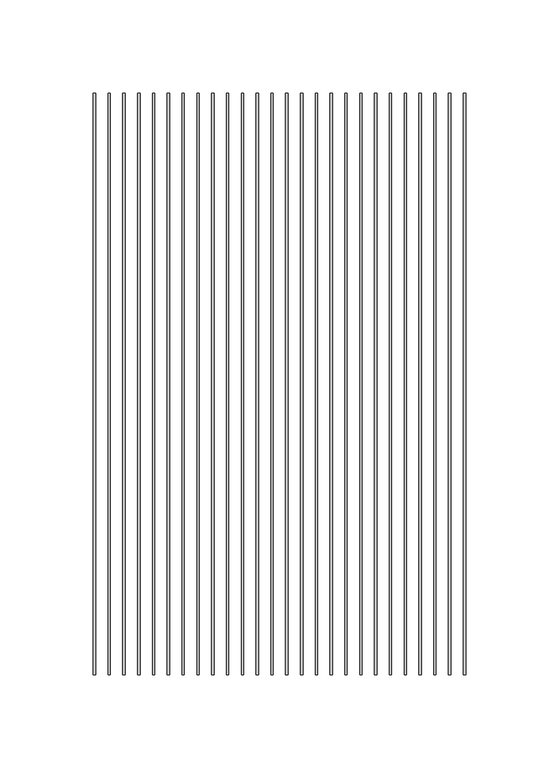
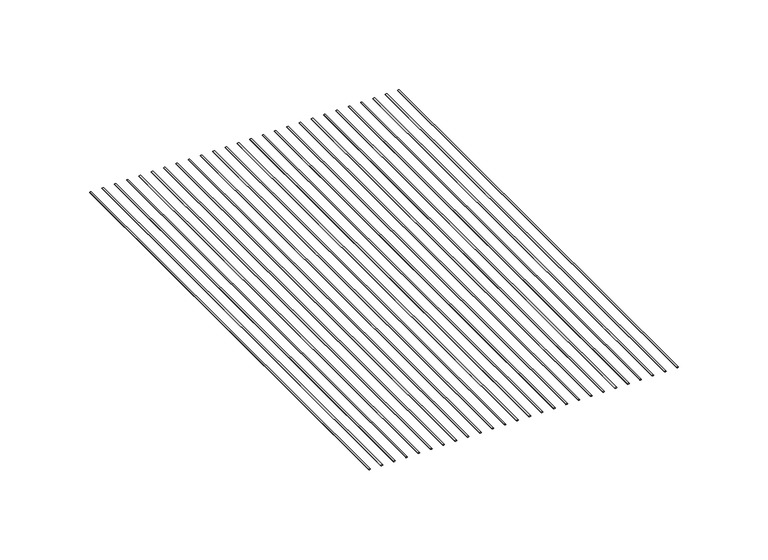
"""IFC4 building model written with IfcOpenShell, lengths in millimetres: proxy geometry, CRAi Generic Model Mesh Piece Face Based : CRAi Generic Model Mesh Piece Face Based."""

from ifc_helpers import new_model, si_unit, point, frame, origin, place, context, project, spatial, ellipse_curve, trimmed, source, transform, mapped, element, save
from ifc_brep_helpers import plane_surface, extruded_surface, advanced_brep


def generic_models_6d26ea6e(model_context):
    return source(origin(), model_context, "Body", "AdvancedBrep", [
        advanced_brep(
        [(-196.6515625, 155.6875423, -2.5796875), (-195.4609375, 155.6875423, -2.5796875), (-196.6515625, -155.6875423, -2.5796875), (-195.4609375, -155.6875423, -2.5796875)],
        [
            (0, 1, ellipse_curve(frame((-196.05625, 155.6875423, -2.5796875), z_axis=(0.0, 1.0, 0.0), x_axis=(1.0, 0.0, 0.0)), 0.5953125, 0.1984375)),
            (1, 0, ellipse_curve(frame((-196.05625, 155.6875423, -2.5796875), z_axis=(0.0, 1.0, 0.0), x_axis=(1.0, 0.0, 0.0)), 0.5953125, 0.1984375)),
            (2, 3, ellipse_curve(frame((-196.05625, -155.6875423, -2.5796875), z_axis=(0.0, -1.0, 0.0), x_axis=(1.0, 0.0, 0.0)), 0.5953125, 0.1984375)),
            (3, 2, ellipse_curve(frame((-196.05625, -155.6875423, -2.5796875), z_axis=(0.0, -1.0, 0.0), x_axis=(1.0, 0.0, 0.0)), 0.5953125, 0.1984375)),
            (1, 3),
            (2, 0),
        ],
        [
            plane_surface(frame((-196.05625, 155.6875423, -2.5796875), z_axis=(0.0, 1.0, 0.0), x_axis=(0.0, 0.0, 1.0))),
            plane_surface(frame((-196.05625, -155.6875423, -2.5796875), z_axis=(0.0, -1.0, 0.0), x_axis=(0.0, 0.0, 1.0))),
            extruded_surface(trimmed(ellipse_curve(frame((-196.05625, 155.6875423, -2.5796875), z_axis=(0.0, -1.0, 0.0), x_axis=(1.0, 0.0, 0.0)), 0.5953125, 0.1984375), [point((-196.6515625, 155.6875423, -2.5796875))], [point((-195.4609375, 155.6875423, -2.5796875))], True, "CARTESIAN"), (0.0, -311.3750846, 0.0), 311.3750846),
            extruded_surface(trimmed(ellipse_curve(frame((-196.05625, 155.6875423, -2.5796875), z_axis=(0.0, -1.0, 0.0), x_axis=(1.0, 0.0, 0.0)), 0.5953125, 0.1984375), [point((-195.4609375, 155.6875423, -2.5796875))], [point((-196.6515625, 155.6875423, -2.5796875))], True, "CARTESIAN"), (0.0, -311.3750846, 0.0), 311.3750846),
        ],
        [
            (0, [[1, 2]]),
            (1, [[3, 4]]),
            (2, [[5, -3, 6, -2]]),
            (3, [[-6, -4, -5, -1]]),
        ],
    ),
        advanced_brep(
        [(-188.7140625, 155.6875423, -2.5796875), (-187.5234375, 155.6875423, -2.5796875), (-188.7140625, -155.6875423, -2.5796875), (-187.5234375, -155.6875423, -2.5796875)],
        [
            (0, 1, ellipse_curve(frame((-188.11875, 155.6875423, -2.5796875), z_axis=(0.0, 1.0, 0.0), x_axis=(1.0, 0.0, 0.0)), 0.5953125, 0.1984375)),
            (1, 0, ellipse_curve(frame((-188.11875, 155.6875423, -2.5796875), z_axis=(0.0, 1.0, 0.0), x_axis=(1.0, 0.0, 0.0)), 0.5953125, 0.1984375)),
            (2, 3, ellipse_curve(frame((-188.11875, -155.6875423, -2.5796875), z_axis=(0.0, -1.0, 0.0), x_axis=(1.0, 0.0, 0.0)), 0.5953125, 0.1984375)),
            (3, 2, ellipse_curve(frame((-188.11875, -155.6875423, -2.5796875), z_axis=(0.0, -1.0, 0.0), x_axis=(1.0, 0.0, 0.0)), 0.5953125, 0.1984375)),
            (1, 3),
            (2, 0),
        ],
        [
            plane_surface(frame((-188.11875, 155.6875423, -2.5796875), z_axis=(0.0, 1.0, 0.0), x_axis=(0.0, 0.0, 1.0))),
            plane_surface(frame((-188.11875, -155.6875423, -2.5796875), z_axis=(0.0, -1.0, 0.0), x_axis=(0.0, 0.0, 1.0))),
            extruded_surface(trimmed(ellipse_curve(frame((-188.11875, 155.6875423, -2.5796875), z_axis=(0.0, -1.0, 0.0), x_axis=(1.0, 0.0, 0.0)), 0.5953125, 0.1984375), [point((-188.7140625, 155.6875423, -2.5796875))], [point((-187.5234375, 155.6875423, -2.5796875))], True, "CARTESIAN"), (0.0, -311.3750846, 0.0), 311.3750846),
            extruded_surface(trimmed(ellipse_curve(frame((-188.11875, 155.6875423, -2.5796875), z_axis=(0.0, -1.0, 0.0), x_axis=(1.0, 0.0, 0.0)), 0.5953125, 0.1984375), [point((-187.5234375, 155.6875423, -2.5796875))], [point((-188.7140625, 155.6875423, -2.5796875))], True, "CARTESIAN"), (0.0, -311.3750846, 0.0), 311.3750846),
        ],
        [
            (0, [[1, 2]]),
            (1, [[3, 4]]),
            (2, [[5, -3, 6, -2]]),
            (3, [[-6, -4, -5, -1]]),
        ],
    ),
        advanced_brep(
        [(-180.7765625, 155.6875423, -2.5796875), (-179.5859375, 155.6875423, -2.5796875), (-180.7765625, -155.6875423, -2.5796875), (-179.5859375, -155.6875423, -2.5796875)],
        [
            (0, 1, ellipse_curve(frame((-180.18125, 155.6875423, -2.5796875), z_axis=(0.0, 1.0, 0.0), x_axis=(1.0, 0.0, 0.0)), 0.5953125, 0.1984375)),
            (1, 0, ellipse_curve(frame((-180.18125, 155.6875423, -2.5796875), z_axis=(0.0, 1.0, 0.0), x_axis=(1.0, 0.0, 0.0)), 0.5953125, 0.1984375)),
            (2, 3, ellipse_curve(frame((-180.18125, -155.6875423, -2.5796875), z_axis=(0.0, -1.0, 0.0), x_axis=(1.0, 0.0, 0.0)), 0.5953125, 0.1984375)),
            (3, 2, ellipse_curve(frame((-180.18125, -155.6875423, -2.5796875), z_axis=(0.0, -1.0, 0.0), x_axis=(1.0, 0.0, 0.0)), 0.5953125, 0.1984375)),
            (1, 3),
            (2, 0),
        ],
        [
            plane_surface(frame((-180.18125, 155.6875423, -2.5796875), z_axis=(0.0, 1.0, 0.0), x_axis=(0.0, 0.0, 1.0))),
            plane_surface(frame((-180.18125, -155.6875423, -2.5796875), z_axis=(0.0, -1.0, 0.0), x_axis=(0.0, 0.0, 1.0))),
            extruded_surface(trimmed(ellipse_curve(frame((-180.18125, 155.6875423, -2.5796875), z_axis=(0.0, -1.0, 0.0), x_axis=(1.0, 0.0, 0.0)), 0.5953125, 0.1984375), [point((-180.7765625, 155.6875423, -2.5796875))], [point((-179.5859375, 155.6875423, -2.5796875))], True, "CARTESIAN"), (0.0, -311.3750846, 0.0), 311.3750846),
            extruded_surface(trimmed(ellipse_curve(frame((-180.18125, 155.6875423, -2.5796875), z_axis=(0.0, -1.0, 0.0), x_axis=(1.0, 0.0, 0.0)), 0.5953125, 0.1984375), [point((-179.5859375, 155.6875423, -2.5796875))], [point((-180.7765625, 155.6875423, -2.5796875))], True, "CARTESIAN"), (0.0, -311.3750846, 0.0), 311.3750846),
        ],
        [
            (0, [[1, 2]]),
            (1, [[3, 4]]),
            (2, [[5, -3, 6, -2]]),
            (3, [[-6, -4, -5, -1]]),
        ],
    ),
        advanced_brep(
        [(-172.8390625, 155.6875423, -2.5796875), (-171.6484375, 155.6875423, -2.5796875), (-172.8390625, -155.6875423, -2.5796875), (-171.6484375, -155.6875423, -2.5796875)],
        [
            (0, 1, ellipse_curve(frame((-172.24375, 155.6875423, -2.5796875), z_axis=(0.0, 1.0, 0.0), x_axis=(1.0, 0.0, 0.0)), 0.5953125, 0.1984375)),
            (1, 0, ellipse_curve(frame((-172.24375, 155.6875423, -2.5796875), z_axis=(0.0, 1.0, 0.0), x_axis=(1.0, 0.0, 0.0)), 0.5953125, 0.1984375)),
            (2, 3, ellipse_curve(frame((-172.24375, -155.6875423, -2.5796875), z_axis=(0.0, -1.0, 0.0), x_axis=(1.0, 0.0, 0.0)), 0.5953125, 0.1984375)),
            (3, 2, ellipse_curve(frame((-172.24375, -155.6875423, -2.5796875), z_axis=(0.0, -1.0, 0.0), x_axis=(1.0, 0.0, 0.0)), 0.5953125, 0.1984375)),
            (1, 3),
            (2, 0),
        ],
        [
            plane_surface(frame((-172.24375, 155.6875423, -2.5796875), z_axis=(0.0, 1.0, 0.0), x_axis=(0.0, 0.0, 1.0))),
            plane_surface(frame((-172.24375, -155.6875423, -2.5796875), z_axis=(0.0, -1.0, 0.0), x_axis=(0.0, 0.0, 1.0))),
            extruded_surface(trimmed(ellipse_curve(frame((-172.24375, 155.6875423, -2.5796875), z_axis=(0.0, -1.0, 0.0), x_axis=(1.0, 0.0, 0.0)), 0.5953125, 0.1984375), [point((-172.8390625, 155.6875423, -2.5796875))], [point((-171.6484375, 155.6875423, -2.5796875))], True, "CARTESIAN"), (0.0, -311.3750846, 0.0), 311.3750846),
            extruded_surface(trimmed(ellipse_curve(frame((-172.24375, 155.6875423, -2.5796875), z_axis=(0.0, -1.0, 0.0), x_axis=(1.0, 0.0, 0.0)), 0.5953125, 0.1984375), [point((-171.6484375, 155.6875423, -2.5796875))], [point((-172.8390625, 155.6875423, -2.5796875))], True, "CARTESIAN"), (0.0, -311.3750846, 0.0), 311.3750846),
        ],
        [
            (0, [[1, 2]]),
            (1, [[3, 4]]),
            (2, [[5, -3, 6, -2]]),
            (3, [[-6, -4, -5, -1]]),
        ],
    ),
        advanced_brep(
        [(-164.9015625, 155.6875423, -2.5796875), (-163.7109375, 155.6875423, -2.5796875), (-164.9015625, -155.6875423, -2.5796875), (-163.7109375, -155.6875423, -2.5796875)],
        [
            (0, 1, ellipse_curve(frame((-164.30625, 155.6875423, -2.5796875), z_axis=(0.0, 1.0, 0.0), x_axis=(1.0, 0.0, 0.0)), 0.5953125, 0.1984375)),
            (1, 0, ellipse_curve(frame((-164.30625, 155.6875423, -2.5796875), z_axis=(0.0, 1.0, 0.0), x_axis=(1.0, 0.0, 0.0)), 0.5953125, 0.1984375)),
            (2, 3, ellipse_curve(frame((-164.30625, -155.6875423, -2.5796875), z_axis=(0.0, -1.0, 0.0), x_axis=(1.0, 0.0, 0.0)), 0.5953125, 0.1984375)),
            (3, 2, ellipse_curve(frame((-164.30625, -155.6875423, -2.5796875), z_axis=(0.0, -1.0, 0.0), x_axis=(1.0, 0.0, 0.0)), 0.5953125, 0.1984375)),
            (1, 3),
            (2, 0),
        ],
        [
            plane_surface(frame((-164.30625, 155.6875423, -2.5796875), z_axis=(0.0, 1.0, 0.0), x_axis=(0.0, 0.0, 1.0))),
            plane_surface(frame((-164.30625, -155.6875423, -2.5796875), z_axis=(0.0, -1.0, 0.0), x_axis=(0.0, 0.0, 1.0))),
            extruded_surface(trimmed(ellipse_curve(frame((-164.30625, 155.6875423, -2.5796875), z_axis=(0.0, -1.0, 0.0), x_axis=(1.0, 0.0, 0.0)), 0.5953125, 0.1984375), [point((-164.9015625, 155.6875423, -2.5796875))], [point((-163.7109375, 155.6875423, -2.5796875))], True, "CARTESIAN"), (0.0, -311.3750846, 0.0), 311.3750846),
            extruded_surface(trimmed(ellipse_curve(frame((-164.30625, 155.6875423, -2.5796875), z_axis=(0.0, -1.0, 0.0), x_axis=(1.0, 0.0, 0.0)), 0.5953125, 0.1984375), [point((-163.7109375, 155.6875423, -2.5796875))], [point((-164.9015625, 155.6875423, -2.5796875))], True, "CARTESIAN"), (0.0, -311.3750846, 0.0), 311.3750846),
        ],
        [
            (0, [[1, 2]]),
            (1, [[3, 4]]),
            (2, [[5, -3, 6, -2]]),
            (3, [[-6, -4, -5, -1]]),
        ],
    ),
        advanced_brep(
        [(-156.9640625, 155.6875423, -2.5796875), (-155.7734375, 155.6875423, -2.5796875), (-156.9640625, -155.6875423, -2.5796875), (-155.7734375, -155.6875423, -2.5796875)],
        [
            (0, 1, ellipse_curve(frame((-156.36875, 155.6875423, -2.5796875), z_axis=(0.0, 1.0, 0.0), x_axis=(1.0, 0.0, 0.0)), 0.5953125, 0.1984375)),
            (1, 0, ellipse_curve(frame((-156.36875, 155.6875423, -2.5796875), z_axis=(0.0, 1.0, 0.0), x_axis=(1.0, 0.0, 0.0)), 0.5953125, 0.1984375)),
            (2, 3, ellipse_curve(frame((-156.36875, -155.6875423, -2.5796875), z_axis=(0.0, -1.0, 0.0), x_axis=(1.0, 0.0, 0.0)), 0.5953125, 0.1984375)),
            (3, 2, ellipse_curve(frame((-156.36875, -155.6875423, -2.5796875), z_axis=(0.0, -1.0, 0.0), x_axis=(1.0, 0.0, 0.0)), 0.5953125, 0.1984375)),
            (1, 3),
            (2, 0),
        ],
        [
            plane_surface(frame((-156.36875, 155.6875423, -2.5796875), z_axis=(0.0, 1.0, 0.0), x_axis=(0.0, 0.0, 1.0))),
            plane_surface(frame((-156.36875, -155.6875423, -2.5796875), z_axis=(0.0, -1.0, 0.0), x_axis=(0.0, 0.0, 1.0))),
            extruded_surface(trimmed(ellipse_curve(frame((-156.36875, 155.6875423, -2.5796875), z_axis=(0.0, -1.0, 0.0), x_axis=(1.0, 0.0, 0.0)), 0.5953125, 0.1984375), [point((-156.9640625, 155.6875423, -2.5796875))], [point((-155.7734375, 155.6875423, -2.5796875))], True, "CARTESIAN"), (0.0, -311.3750846, 0.0), 311.3750846),
            extruded_surface(trimmed(ellipse_curve(frame((-156.36875, 155.6875423, -2.5796875), z_axis=(0.0, -1.0, 0.0), x_axis=(1.0, 0.0, 0.0)), 0.5953125, 0.1984375), [point((-155.7734375, 155.6875423, -2.5796875))], [point((-156.9640625, 155.6875423, -2.5796875))], True, "CARTESIAN"), (0.0, -311.3750846, 0.0), 311.3750846),
        ],
        [
            (0, [[1, 2]]),
            (1, [[3, 4]]),
            (2, [[5, -3, 6, -2]]),
            (3, [[-6, -4, -5, -1]]),
        ],
    ),
        advanced_brep(
        [(-149.0265625, 155.6875423, -2.5796875), (-147.8359375, 155.6875423, -2.5796875), (-149.0265625, -155.6875423, -2.5796875), (-147.8359375, -155.6875423, -2.5796875)],
        [
            (0, 1, ellipse_curve(frame((-148.43125, 155.6875423, -2.5796875), z_axis=(0.0, 1.0, 0.0), x_axis=(1.0, 0.0, 0.0)), 0.5953125, 0.1984375)),
            (1, 0, ellipse_curve(frame((-148.43125, 155.6875423, -2.5796875), z_axis=(0.0, 1.0, 0.0), x_axis=(1.0, 0.0, 0.0)), 0.5953125, 0.1984375)),
            (2, 3, ellipse_curve(frame((-148.43125, -155.6875423, -2.5796875), z_axis=(0.0, -1.0, 0.0), x_axis=(1.0, 0.0, 0.0)), 0.5953125, 0.1984375)),
            (3, 2, ellipse_curve(frame((-148.43125, -155.6875423, -2.5796875), z_axis=(0.0, -1.0, 0.0), x_axis=(1.0, 0.0, 0.0)), 0.5953125, 0.1984375)),
            (1, 3),
            (2, 0),
        ],
        [
            plane_surface(frame((-148.43125, 155.6875423, -2.5796875), z_axis=(0.0, 1.0, 0.0), x_axis=(0.0, 0.0, 1.0))),
            plane_surface(frame((-148.43125, -155.6875423, -2.5796875), z_axis=(0.0, -1.0, 0.0), x_axis=(0.0, 0.0, 1.0))),
            extruded_surface(trimmed(ellipse_curve(frame((-148.43125, 155.6875423, -2.5796875), z_axis=(0.0, -1.0, 0.0), x_axis=(1.0, 0.0, 0.0)), 0.5953125, 0.1984375), [point((-149.0265625, 155.6875423, -2.5796875))], [point((-147.8359375, 155.6875423, -2.5796875))], True, "CARTESIAN"), (0.0, -311.3750846, 0.0), 311.3750846),
            extruded_surface(trimmed(ellipse_curve(frame((-148.43125, 155.6875423, -2.5796875), z_axis=(0.0, -1.0, 0.0), x_axis=(1.0, 0.0, 0.0)), 0.5953125, 0.1984375), [point((-147.8359375, 155.6875423, -2.5796875))], [point((-149.0265625, 155.6875423, -2.5796875))], True, "CARTESIAN"), (0.0, -311.3750846, 0.0), 311.3750846),
        ],
        [
            (0, [[1, 2]]),
            (1, [[3, 4]]),
            (2, [[5, -3, 6, -2]]),
            (3, [[-6, -4, -5, -1]]),
        ],
    ),
        advanced_brep(
        [(-141.0890625, 155.6875423, -2.5796875), (-139.8984375, 155.6875423, -2.5796875), (-141.0890625, -155.6875423, -2.5796875), (-139.8984375, -155.6875423, -2.5796875)],
        [
            (0, 1, ellipse_curve(frame((-140.49375, 155.6875423, -2.5796875), z_axis=(0.0, 1.0, 0.0), x_axis=(1.0, 0.0, 0.0)), 0.5953125, 0.1984375)),
            (1, 0, ellipse_curve(frame((-140.49375, 155.6875423, -2.5796875), z_axis=(0.0, 1.0, 0.0), x_axis=(1.0, 0.0, 0.0)), 0.5953125, 0.1984375)),
            (2, 3, ellipse_curve(frame((-140.49375, -155.6875423, -2.5796875), z_axis=(0.0, -1.0, 0.0), x_axis=(1.0, 0.0, 0.0)), 0.5953125, 0.1984375)),
            (3, 2, ellipse_curve(frame((-140.49375, -155.6875423, -2.5796875), z_axis=(0.0, -1.0, 0.0), x_axis=(1.0, 0.0, 0.0)), 0.5953125, 0.1984375)),
            (1, 3),
            (2, 0),
        ],
        [
            plane_surface(frame((-140.49375, 155.6875423, -2.5796875), z_axis=(0.0, 1.0, 0.0), x_axis=(0.0, 0.0, 1.0))),
            plane_surface(frame((-140.49375, -155.6875423, -2.5796875), z_axis=(0.0, -1.0, 0.0), x_axis=(0.0, 0.0, 1.0))),
            extruded_surface(trimmed(ellipse_curve(frame((-140.49375, 155.6875423, -2.5796875), z_axis=(0.0, -1.0, 0.0), x_axis=(1.0, 0.0, 0.0)), 0.5953125, 0.1984375), [point((-141.0890625, 155.6875423, -2.5796875))], [point((-139.8984375, 155.6875423, -2.5796875))], True, "CARTESIAN"), (0.0, -311.3750846, 0.0), 311.3750846),
            extruded_surface(trimmed(ellipse_curve(frame((-140.49375, 155.6875423, -2.5796875), z_axis=(0.0, -1.0, 0.0), x_axis=(1.0, 0.0, 0.0)), 0.5953125, 0.1984375), [point((-139.8984375, 155.6875423, -2.5796875))], [point((-141.0890625, 155.6875423, -2.5796875))], True, "CARTESIAN"), (0.0, -311.3750846, 0.0), 311.3750846),
        ],
        [
            (0, [[1, 2]]),
            (1, [[3, 4]]),
            (2, [[5, -3, 6, -2]]),
            (3, [[-6, -4, -5, -1]]),
        ],
    ),
        advanced_brep(
        [(-133.1515625, 155.6875423, -2.5796875), (-131.9609375, 155.6875423, -2.5796875), (-133.1515625, -155.6875423, -2.5796875), (-131.9609375, -155.6875423, -2.5796875)],
        [
            (0, 1, ellipse_curve(frame((-132.55625, 155.6875423, -2.5796875), z_axis=(0.0, 1.0, 0.0), x_axis=(1.0, 0.0, 0.0)), 0.5953125, 0.1984375)),
            (1, 0, ellipse_curve(frame((-132.55625, 155.6875423, -2.5796875), z_axis=(0.0, 1.0, 0.0), x_axis=(1.0, 0.0, 0.0)), 0.5953125, 0.1984375)),
            (2, 3, ellipse_curve(frame((-132.55625, -155.6875423, -2.5796875), z_axis=(0.0, -1.0, 0.0), x_axis=(1.0, 0.0, 0.0)), 0.5953125, 0.1984375)),
            (3, 2, ellipse_curve(frame((-132.55625, -155.6875423, -2.5796875), z_axis=(0.0, -1.0, 0.0), x_axis=(1.0, 0.0, 0.0)), 0.5953125, 0.1984375)),
            (1, 3),
            (2, 0),
        ],
        [
            plane_surface(frame((-132.55625, 155.6875423, -2.5796875), z_axis=(0.0, 1.0, 0.0), x_axis=(0.0, 0.0, 1.0))),
            plane_surface(frame((-132.55625, -155.6875423, -2.5796875), z_axis=(0.0, -1.0, 0.0), x_axis=(0.0, 0.0, 1.0))),
            extruded_surface(trimmed(ellipse_curve(frame((-132.55625, 155.6875423, -2.5796875), z_axis=(0.0, -1.0, 0.0), x_axis=(1.0, 0.0, 0.0)), 0.5953125, 0.1984375), [point((-133.1515625, 155.6875423, -2.5796875))], [point((-131.9609375, 155.6875423, -2.5796875))], True, "CARTESIAN"), (0.0, -311.3750846, 0.0), 311.3750846),
            extruded_surface(trimmed(ellipse_curve(frame((-132.55625, 155.6875423, -2.5796875), z_axis=(0.0, -1.0, 0.0), x_axis=(1.0, 0.0, 0.0)), 0.5953125, 0.1984375), [point((-131.9609375, 155.6875423, -2.5796875))], [point((-133.1515625, 155.6875423, -2.5796875))], True, "CARTESIAN"), (0.0, -311.3750846, 0.0), 311.3750846),
        ],
        [
            (0, [[1, 2]]),
            (1, [[3, 4]]),
            (2, [[5, -3, 6, -2]]),
            (3, [[-6, -4, -5, -1]]),
        ],
    ),
        advanced_brep(
        [(-125.2140625, 155.6875423, -2.5796875), (-124.0234375, 155.6875423, -2.5796875), (-125.2140625, -155.6875423, -2.5796875), (-124.0234375, -155.6875423, -2.5796875)],
        [
            (0, 1, ellipse_curve(frame((-124.61875, 155.6875423, -2.5796875), z_axis=(0.0, 1.0, 0.0), x_axis=(1.0, 0.0, 0.0)), 0.5953125, 0.1984375)),
            (1, 0, ellipse_curve(frame((-124.61875, 155.6875423, -2.5796875), z_axis=(0.0, 1.0, 0.0), x_axis=(1.0, 0.0, 0.0)), 0.5953125, 0.1984375)),
            (2, 3, ellipse_curve(frame((-124.61875, -155.6875423, -2.5796875), z_axis=(0.0, -1.0, 0.0), x_axis=(1.0, 0.0, 0.0)), 0.5953125, 0.1984375)),
            (3, 2, ellipse_curve(frame((-124.61875, -155.6875423, -2.5796875), z_axis=(0.0, -1.0, 0.0), x_axis=(1.0, 0.0, 0.0)), 0.5953125, 0.1984375)),
            (1, 3),
            (2, 0),
        ],
        [
            plane_surface(frame((-124.61875, 155.6875423, -2.5796875), z_axis=(0.0, 1.0, 0.0), x_axis=(0.0, 0.0, 1.0))),
            plane_surface(frame((-124.61875, -155.6875423, -2.5796875), z_axis=(0.0, -1.0, 0.0), x_axis=(0.0, 0.0, 1.0))),
            extruded_surface(trimmed(ellipse_curve(frame((-124.61875, 155.6875423, -2.5796875), z_axis=(0.0, -1.0, 0.0), x_axis=(1.0, 0.0, 0.0)), 0.5953125, 0.1984375), [point((-125.2140625, 155.6875423, -2.5796875))], [point((-124.0234375, 155.6875423, -2.5796875))], True, "CARTESIAN"), (0.0, -311.3750846, 0.0), 311.3750846),
            extruded_surface(trimmed(ellipse_curve(frame((-124.61875, 155.6875423, -2.5796875), z_axis=(0.0, -1.0, 0.0), x_axis=(1.0, 0.0, 0.0)), 0.5953125, 0.1984375), [point((-124.0234375, 155.6875423, -2.5796875))], [point((-125.2140625, 155.6875423, -2.5796875))], True, "CARTESIAN"), (0.0, -311.3750846, 0.0), 311.3750846),
        ],
        [
            (0, [[1, 2]]),
            (1, [[3, 4]]),
            (2, [[5, -3, 6, -2]]),
            (3, [[-6, -4, -5, -1]]),
        ],
    ),
        advanced_brep(
        [(-117.2765625, 155.6875423, -2.5796875), (-116.0859375, 155.6875423, -2.5796875), (-117.2765625, -155.6875423, -2.5796875), (-116.0859375, -155.6875423, -2.5796875)],
        [
            (0, 1, ellipse_curve(frame((-116.68125, 155.6875423, -2.5796875), z_axis=(0.0, 1.0, 0.0), x_axis=(1.0, 0.0, 0.0)), 0.5953125, 0.1984375)),
            (1, 0, ellipse_curve(frame((-116.68125, 155.6875423, -2.5796875), z_axis=(0.0, 1.0, 0.0), x_axis=(1.0, 0.0, 0.0)), 0.5953125, 0.1984375)),
            (2, 3, ellipse_curve(frame((-116.68125, -155.6875423, -2.5796875), z_axis=(0.0, -1.0, 0.0), x_axis=(1.0, 0.0, 0.0)), 0.5953125, 0.1984375)),
            (3, 2, ellipse_curve(frame((-116.68125, -155.6875423, -2.5796875), z_axis=(0.0, -1.0, 0.0), x_axis=(1.0, 0.0, 0.0)), 0.5953125, 0.1984375)),
            (1, 3),
            (2, 0),
        ],
        [
            plane_surface(frame((-116.68125, 155.6875423, -2.5796875), z_axis=(0.0, 1.0, 0.0), x_axis=(0.0, 0.0, 1.0))),
            plane_surface(frame((-116.68125, -155.6875423, -2.5796875), z_axis=(0.0, -1.0, 0.0), x_axis=(0.0, 0.0, 1.0))),
            extruded_surface(trimmed(ellipse_curve(frame((-116.68125, 155.6875423, -2.5796875), z_axis=(0.0, -1.0, 0.0), x_axis=(1.0, 0.0, 0.0)), 0.5953125, 0.1984375), [point((-117.2765625, 155.6875423, -2.5796875))], [point((-116.0859375, 155.6875423, -2.5796875))], True, "CARTESIAN"), (0.0, -311.3750846, 0.0), 311.3750846),
            extruded_surface(trimmed(ellipse_curve(frame((-116.68125, 155.6875423, -2.5796875), z_axis=(0.0, -1.0, 0.0), x_axis=(1.0, 0.0, 0.0)), 0.5953125, 0.1984375), [point((-116.0859375, 155.6875423, -2.5796875))], [point((-117.2765625, 155.6875423, -2.5796875))], True, "CARTESIAN"), (0.0, -311.3750846, 0.0), 311.3750846),
        ],
        [
            (0, [[1, 2]]),
            (1, [[3, 4]]),
            (2, [[5, -3, 6, -2]]),
            (3, [[-6, -4, -5, -1]]),
        ],
    ),
        advanced_brep(
        [(-109.3390625, 155.6875423, -2.5796875), (-108.1484375, 155.6875423, -2.5796875), (-109.3390625, -155.6875423, -2.5796875), (-108.1484375, -155.6875423, -2.5796875)],
        [
            (0, 1, ellipse_curve(frame((-108.74375, 155.6875423, -2.5796875), z_axis=(0.0, 1.0, 0.0), x_axis=(1.0, 0.0, 0.0)), 0.5953125, 0.1984375)),
            (1, 0, ellipse_curve(frame((-108.74375, 155.6875423, -2.5796875), z_axis=(0.0, 1.0, 0.0), x_axis=(1.0, 0.0, 0.0)), 0.5953125, 0.1984375)),
            (2, 3, ellipse_curve(frame((-108.74375, -155.6875423, -2.5796875), z_axis=(0.0, -1.0, 0.0), x_axis=(1.0, 0.0, 0.0)), 0.5953125, 0.1984375)),
            (3, 2, ellipse_curve(frame((-108.74375, -155.6875423, -2.5796875), z_axis=(0.0, -1.0, 0.0), x_axis=(1.0, 0.0, 0.0)), 0.5953125, 0.1984375)),
            (1, 3),
            (2, 0),
        ],
        [
            plane_surface(frame((-108.74375, 155.6875423, -2.5796875), z_axis=(0.0, 1.0, 0.0), x_axis=(0.0, 0.0, 1.0))),
            plane_surface(frame((-108.74375, -155.6875423, -2.5796875), z_axis=(0.0, -1.0, 0.0), x_axis=(0.0, 0.0, 1.0))),
            extruded_surface(trimmed(ellipse_curve(frame((-108.74375, 155.6875423, -2.5796875), z_axis=(0.0, -1.0, 0.0), x_axis=(1.0, 0.0, 0.0)), 0.5953125, 0.1984375), [point((-109.3390625, 155.6875423, -2.5796875))], [point((-108.1484375, 155.6875423, -2.5796875))], True, "CARTESIAN"), (0.0, -311.3750846, 0.0), 311.3750846),
            extruded_surface(trimmed(ellipse_curve(frame((-108.74375, 155.6875423, -2.5796875), z_axis=(0.0, -1.0, 0.0), x_axis=(1.0, 0.0, 0.0)), 0.5953125, 0.1984375), [point((-108.1484375, 155.6875423, -2.5796875))], [point((-109.3390625, 155.6875423, -2.5796875))], True, "CARTESIAN"), (0.0, -311.3750846, 0.0), 311.3750846),
        ],
        [
            (0, [[1, 2]]),
            (1, [[3, 4]]),
            (2, [[5, -3, 6, -2]]),
            (3, [[-6, -4, -5, -1]]),
        ],
    ),
        advanced_brep(
        [(-101.4015625, 155.6875423, -2.5796875), (-100.2109375, 155.6875423, -2.5796875), (-101.4015625, -155.6875423, -2.5796875), (-100.2109375, -155.6875423, -2.5796875)],
        [
            (0, 1, ellipse_curve(frame((-100.80625, 155.6875423, -2.5796875), z_axis=(0.0, 1.0, 0.0), x_axis=(1.0, 0.0, 0.0)), 0.5953125, 0.1984375)),
            (1, 0, ellipse_curve(frame((-100.80625, 155.6875423, -2.5796875), z_axis=(0.0, 1.0, 0.0), x_axis=(1.0, 0.0, 0.0)), 0.5953125, 0.1984375)),
            (2, 3, ellipse_curve(frame((-100.80625, -155.6875423, -2.5796875), z_axis=(0.0, -1.0, 0.0), x_axis=(1.0, 0.0, 0.0)), 0.5953125, 0.1984375)),
            (3, 2, ellipse_curve(frame((-100.80625, -155.6875423, -2.5796875), z_axis=(0.0, -1.0, 0.0), x_axis=(1.0, 0.0, 0.0)), 0.5953125, 0.1984375)),
            (1, 3),
            (2, 0),
        ],
        [
            plane_surface(frame((-100.80625, 155.6875423, -2.5796875), z_axis=(0.0, 1.0, 0.0), x_axis=(0.0, 0.0, 1.0))),
            plane_surface(frame((-100.80625, -155.6875423, -2.5796875), z_axis=(0.0, -1.0, 0.0), x_axis=(0.0, 0.0, 1.0))),
            extruded_surface(trimmed(ellipse_curve(frame((-100.80625, 155.6875423, -2.5796875), z_axis=(0.0, -1.0, 0.0), x_axis=(1.0, 0.0, 0.0)), 0.5953125, 0.1984375), [point((-101.4015625, 155.6875423, -2.5796875))], [point((-100.2109375, 155.6875423, -2.5796875))], True, "CARTESIAN"), (0.0, -311.3750846, 0.0), 311.3750846),
            extruded_surface(trimmed(ellipse_curve(frame((-100.80625, 155.6875423, -2.5796875), z_axis=(0.0, -1.0, 0.0), x_axis=(1.0, 0.0, 0.0)), 0.5953125, 0.1984375), [point((-100.2109375, 155.6875423, -2.5796875))], [point((-101.4015625, 155.6875423, -2.5796875))], True, "CARTESIAN"), (0.0, -311.3750846, 0.0), 311.3750846),
        ],
        [
            (0, [[1, 2]]),
            (1, [[3, 4]]),
            (2, [[5, -3, 6, -2]]),
            (3, [[-6, -4, -5, -1]]),
        ],
    ),
        advanced_brep(
        [(-93.4640625, 155.6875423, -2.5796875), (-92.2734375, 155.6875423, -2.5796875), (-93.4640625, -155.6875423, -2.5796875), (-92.2734375, -155.6875423, -2.5796875)],
        [
            (0, 1, ellipse_curve(frame((-92.86875, 155.6875423, -2.5796875), z_axis=(0.0, 1.0, 0.0), x_axis=(1.0, 0.0, 0.0)), 0.5953125, 0.1984375)),
            (1, 0, ellipse_curve(frame((-92.86875, 155.6875423, -2.5796875), z_axis=(0.0, 1.0, 0.0), x_axis=(1.0, 0.0, 0.0)), 0.5953125, 0.1984375)),
            (2, 3, ellipse_curve(frame((-92.86875, -155.6875423, -2.5796875), z_axis=(0.0, -1.0, 0.0), x_axis=(1.0, 0.0, 0.0)), 0.5953125, 0.1984375)),
            (3, 2, ellipse_curve(frame((-92.86875, -155.6875423, -2.5796875), z_axis=(0.0, -1.0, 0.0), x_axis=(1.0, 0.0, 0.0)), 0.5953125, 0.1984375)),
            (1, 3),
            (2, 0),
        ],
        [
            plane_surface(frame((-92.86875, 155.6875423, -2.5796875), z_axis=(0.0, 1.0, 0.0), x_axis=(0.0, 0.0, 1.0))),
            plane_surface(frame((-92.86875, -155.6875423, -2.5796875), z_axis=(0.0, -1.0, 0.0), x_axis=(0.0, 0.0, 1.0))),
            extruded_surface(trimmed(ellipse_curve(frame((-92.86875, 155.6875423, -2.5796875), z_axis=(0.0, -1.0, 0.0), x_axis=(1.0, 0.0, 0.0)), 0.5953125, 0.1984375), [point((-93.4640625, 155.6875423, -2.5796875))], [point((-92.2734375, 155.6875423, -2.5796875))], True, "CARTESIAN"), (0.0, -311.3750846, 0.0), 311.3750846),
            extruded_surface(trimmed(ellipse_curve(frame((-92.86875, 155.6875423, -2.5796875), z_axis=(0.0, -1.0, 0.0), x_axis=(1.0, 0.0, 0.0)), 0.5953125, 0.1984375), [point((-92.2734375, 155.6875423, -2.5796875))], [point((-93.4640625, 155.6875423, -2.5796875))], True, "CARTESIAN"), (0.0, -311.3750846, 0.0), 311.3750846),
        ],
        [
            (0, [[1, 2]]),
            (1, [[3, 4]]),
            (2, [[5, -3, 6, -2]]),
            (3, [[-6, -4, -5, -1]]),
        ],
    ),
        advanced_brep(
        [(-85.5265625, 155.6875423, -2.5796875), (-84.3359375, 155.6875423, -2.5796875), (-85.5265625, -155.6875423, -2.5796875), (-84.3359375, -155.6875423, -2.5796875)],
        [
            (0, 1, ellipse_curve(frame((-84.93125, 155.6875423, -2.5796875), z_axis=(0.0, 1.0, 0.0), x_axis=(1.0, 0.0, 0.0)), 0.5953125, 0.1984375)),
            (1, 0, ellipse_curve(frame((-84.93125, 155.6875423, -2.5796875), z_axis=(0.0, 1.0, 0.0), x_axis=(1.0, 0.0, 0.0)), 0.5953125, 0.1984375)),
            (2, 3, ellipse_curve(frame((-84.93125, -155.6875423, -2.5796875), z_axis=(0.0, -1.0, 0.0), x_axis=(1.0, 0.0, 0.0)), 0.5953125, 0.1984375)),
            (3, 2, ellipse_curve(frame((-84.93125, -155.6875423, -2.5796875), z_axis=(0.0, -1.0, 0.0), x_axis=(1.0, 0.0, 0.0)), 0.5953125, 0.1984375)),
            (1, 3),
            (2, 0),
        ],
        [
            plane_surface(frame((-84.93125, 155.6875423, -2.5796875), z_axis=(0.0, 1.0, 0.0), x_axis=(0.0, 0.0, 1.0))),
            plane_surface(frame((-84.93125, -155.6875423, -2.5796875), z_axis=(0.0, -1.0, 0.0), x_axis=(0.0, 0.0, 1.0))),
            extruded_surface(trimmed(ellipse_curve(frame((-84.93125, 155.6875423, -2.5796875), z_axis=(0.0, -1.0, 0.0), x_axis=(1.0, 0.0, 0.0)), 0.5953125, 0.1984375), [point((-85.5265625, 155.6875423, -2.5796875))], [point((-84.3359375, 155.6875423, -2.5796875))], True, "CARTESIAN"), (0.0, -311.3750846, 0.0), 311.3750846),
            extruded_surface(trimmed(ellipse_curve(frame((-84.93125, 155.6875423, -2.5796875), z_axis=(0.0, -1.0, 0.0), x_axis=(1.0, 0.0, 0.0)), 0.5953125, 0.1984375), [point((-84.3359375, 155.6875423, -2.5796875))], [point((-85.5265625, 155.6875423, -2.5796875))], True, "CARTESIAN"), (0.0, -311.3750846, 0.0), 311.3750846),
        ],
        [
            (0, [[1, 2]]),
            (1, [[3, 4]]),
            (2, [[5, -3, 6, -2]]),
            (3, [[-6, -4, -5, -1]]),
        ],
    ),
        advanced_brep(
        [(-77.5890625, 155.6875423, -2.5796875), (-76.3984375, 155.6875423, -2.5796875), (-77.5890625, -155.6875423, -2.5796875), (-76.3984375, -155.6875423, -2.5796875)],
        [
            (0, 1, ellipse_curve(frame((-76.99375, 155.6875423, -2.5796875), z_axis=(0.0, 1.0, 0.0), x_axis=(1.0, 0.0, 0.0)), 0.5953125, 0.1984375)),
            (1, 0, ellipse_curve(frame((-76.99375, 155.6875423, -2.5796875), z_axis=(0.0, 1.0, 0.0), x_axis=(1.0, 0.0, 0.0)), 0.5953125, 0.1984375)),
            (2, 3, ellipse_curve(frame((-76.99375, -155.6875423, -2.5796875), z_axis=(0.0, -1.0, 0.0), x_axis=(1.0, 0.0, 0.0)), 0.5953125, 0.1984375)),
            (3, 2, ellipse_curve(frame((-76.99375, -155.6875423, -2.5796875), z_axis=(0.0, -1.0, 0.0), x_axis=(1.0, 0.0, 0.0)), 0.5953125, 0.1984375)),
            (1, 3),
            (2, 0),
        ],
        [
            plane_surface(frame((-76.99375, 155.6875423, -2.5796875), z_axis=(0.0, 1.0, 0.0), x_axis=(0.0, 0.0, 1.0))),
            plane_surface(frame((-76.99375, -155.6875423, -2.5796875), z_axis=(0.0, -1.0, 0.0), x_axis=(0.0, 0.0, 1.0))),
            extruded_surface(trimmed(ellipse_curve(frame((-76.99375, 155.6875423, -2.5796875), z_axis=(0.0, -1.0, 0.0), x_axis=(1.0, 0.0, 0.0)), 0.5953125, 0.1984375), [point((-77.5890625, 155.6875423, -2.5796875))], [point((-76.3984375, 155.6875423, -2.5796875))], True, "CARTESIAN"), (0.0, -311.3750846, 0.0), 311.3750846),
            extruded_surface(trimmed(ellipse_curve(frame((-76.99375, 155.6875423, -2.5796875), z_axis=(0.0, -1.0, 0.0), x_axis=(1.0, 0.0, 0.0)), 0.5953125, 0.1984375), [point((-76.3984375, 155.6875423, -2.5796875))], [point((-77.5890625, 155.6875423, -2.5796875))], True, "CARTESIAN"), (0.0, -311.3750846, 0.0), 311.3750846),
        ],
        [
            (0, [[1, 2]]),
            (1, [[3, 4]]),
            (2, [[5, -3, 6, -2]]),
            (3, [[-6, -4, -5, -1]]),
        ],
    ),
        advanced_brep(
        [(-69.6515625, 155.6875423, -2.5796875), (-68.4609375, 155.6875423, -2.5796875), (-69.6515625, -155.6875423, -2.5796875), (-68.4609375, -155.6875423, -2.5796875)],
        [
            (0, 1, ellipse_curve(frame((-69.05625, 155.6875423, -2.5796875), z_axis=(0.0, 1.0, 0.0), x_axis=(1.0, 0.0, 0.0)), 0.5953125, 0.1984375)),
            (1, 0, ellipse_curve(frame((-69.05625, 155.6875423, -2.5796875), z_axis=(0.0, 1.0, 0.0), x_axis=(1.0, 0.0, 0.0)), 0.5953125, 0.1984375)),
            (2, 3, ellipse_curve(frame((-69.05625, -155.6875423, -2.5796875), z_axis=(0.0, -1.0, 0.0), x_axis=(1.0, 0.0, 0.0)), 0.5953125, 0.1984375)),
            (3, 2, ellipse_curve(frame((-69.05625, -155.6875423, -2.5796875), z_axis=(0.0, -1.0, 0.0), x_axis=(1.0, 0.0, 0.0)), 0.5953125, 0.1984375)),
            (1, 3),
            (2, 0),
        ],
        [
            plane_surface(frame((-69.05625, 155.6875423, -2.5796875), z_axis=(0.0, 1.0, 0.0), x_axis=(0.0, 0.0, 1.0))),
            plane_surface(frame((-69.05625, -155.6875423, -2.5796875), z_axis=(0.0, -1.0, 0.0), x_axis=(0.0, 0.0, 1.0))),
            extruded_surface(trimmed(ellipse_curve(frame((-69.05625, 155.6875423, -2.5796875), z_axis=(0.0, -1.0, 0.0), x_axis=(1.0, 0.0, 0.0)), 0.5953125, 0.1984375), [point((-69.6515625, 155.6875423, -2.5796875))], [point((-68.4609375, 155.6875423, -2.5796875))], True, "CARTESIAN"), (0.0, -311.3750846, 0.0), 311.3750846),
            extruded_surface(trimmed(ellipse_curve(frame((-69.05625, 155.6875423, -2.5796875), z_axis=(0.0, -1.0, 0.0), x_axis=(1.0, 0.0, 0.0)), 0.5953125, 0.1984375), [point((-68.4609375, 155.6875423, -2.5796875))], [point((-69.6515625, 155.6875423, -2.5796875))], True, "CARTESIAN"), (0.0, -311.3750846, 0.0), 311.3750846),
        ],
        [
            (0, [[1, 2]]),
            (1, [[3, 4]]),
            (2, [[5, -3, 6, -2]]),
            (3, [[-6, -4, -5, -1]]),
        ],
    ),
        advanced_brep(
        [(-61.7140625, 155.6875423, -2.5796875), (-60.5234375, 155.6875423, -2.5796875), (-61.7140625, -155.6875423, -2.5796875), (-60.5234375, -155.6875423, -2.5796875)],
        [
            (0, 1, ellipse_curve(frame((-61.11875, 155.6875423, -2.5796875), z_axis=(0.0, 1.0, 0.0), x_axis=(1.0, 0.0, 0.0)), 0.5953125, 0.1984375)),
            (1, 0, ellipse_curve(frame((-61.11875, 155.6875423, -2.5796875), z_axis=(0.0, 1.0, 0.0), x_axis=(1.0, 0.0, 0.0)), 0.5953125, 0.1984375)),
            (2, 3, ellipse_curve(frame((-61.11875, -155.6875423, -2.5796875), z_axis=(0.0, -1.0, 0.0), x_axis=(1.0, 0.0, 0.0)), 0.5953125, 0.1984375)),
            (3, 2, ellipse_curve(frame((-61.11875, -155.6875423, -2.5796875), z_axis=(0.0, -1.0, 0.0), x_axis=(1.0, 0.0, 0.0)), 0.5953125, 0.1984375)),
            (1, 3),
            (2, 0),
        ],
        [
            plane_surface(frame((-61.11875, 155.6875423, -2.5796875), z_axis=(0.0, 1.0, 0.0), x_axis=(0.0, 0.0, 1.0))),
            plane_surface(frame((-61.11875, -155.6875423, -2.5796875), z_axis=(0.0, -1.0, 0.0), x_axis=(0.0, 0.0, 1.0))),
            extruded_surface(trimmed(ellipse_curve(frame((-61.11875, 155.6875423, -2.5796875), z_axis=(0.0, -1.0, 0.0), x_axis=(1.0, 0.0, 0.0)), 0.5953125, 0.1984375), [point((-61.7140625, 155.6875423, -2.5796875))], [point((-60.5234375, 155.6875423, -2.5796875))], True, "CARTESIAN"), (0.0, -311.3750846, 0.0), 311.3750846),
            extruded_surface(trimmed(ellipse_curve(frame((-61.11875, 155.6875423, -2.5796875), z_axis=(0.0, -1.0, 0.0), x_axis=(1.0, 0.0, 0.0)), 0.5953125, 0.1984375), [point((-60.5234375, 155.6875423, -2.5796875))], [point((-61.7140625, 155.6875423, -2.5796875))], True, "CARTESIAN"), (0.0, -311.3750846, 0.0), 311.3750846),
        ],
        [
            (0, [[1, 2]]),
            (1, [[3, 4]]),
            (2, [[5, -3, 6, -2]]),
            (3, [[-6, -4, -5, -1]]),
        ],
    ),
        advanced_brep(
        [(-53.7765625, 155.6875423, -2.5796875), (-52.5859375, 155.6875423, -2.5796875), (-53.7765625, -155.6875423, -2.5796875), (-52.5859375, -155.6875423, -2.5796875)],
        [
            (0, 1, ellipse_curve(frame((-53.18125, 155.6875423, -2.5796875), z_axis=(0.0, 1.0, 0.0), x_axis=(1.0, 0.0, 0.0)), 0.5953125, 0.1984375)),
            (1, 0, ellipse_curve(frame((-53.18125, 155.6875423, -2.5796875), z_axis=(0.0, 1.0, 0.0), x_axis=(1.0, 0.0, 0.0)), 0.5953125, 0.1984375)),
            (2, 3, ellipse_curve(frame((-53.18125, -155.6875423, -2.5796875), z_axis=(0.0, -1.0, 0.0), x_axis=(1.0, 0.0, 0.0)), 0.5953125, 0.1984375)),
            (3, 2, ellipse_curve(frame((-53.18125, -155.6875423, -2.5796875), z_axis=(0.0, -1.0, 0.0), x_axis=(1.0, 0.0, 0.0)), 0.5953125, 0.1984375)),
            (1, 3),
            (2, 0),
        ],
        [
            plane_surface(frame((-53.18125, 155.6875423, -2.5796875), z_axis=(0.0, 1.0, 0.0), x_axis=(0.0, 0.0, 1.0))),
            plane_surface(frame((-53.18125, -155.6875423, -2.5796875), z_axis=(0.0, -1.0, 0.0), x_axis=(0.0, 0.0, 1.0))),
            extruded_surface(trimmed(ellipse_curve(frame((-53.18125, 155.6875423, -2.5796875), z_axis=(0.0, -1.0, 0.0), x_axis=(1.0, 0.0, 0.0)), 0.5953125, 0.1984375), [point((-53.7765625, 155.6875423, -2.5796875))], [point((-52.5859375, 155.6875423, -2.5796875))], True, "CARTESIAN"), (0.0, -311.3750846, 0.0), 311.3750846),
            extruded_surface(trimmed(ellipse_curve(frame((-53.18125, 155.6875423, -2.5796875), z_axis=(0.0, -1.0, 0.0), x_axis=(1.0, 0.0, 0.0)), 0.5953125, 0.1984375), [point((-52.5859375, 155.6875423, -2.5796875))], [point((-53.7765625, 155.6875423, -2.5796875))], True, "CARTESIAN"), (0.0, -311.3750846, 0.0), 311.3750846),
        ],
        [
            (0, [[1, 2]]),
            (1, [[3, 4]]),
            (2, [[5, -3, 6, -2]]),
            (3, [[-6, -4, -5, -1]]),
        ],
    ),
        advanced_brep(
        [(-45.8390625, 155.6875423, -2.5796875), (-44.6484375, 155.6875423, -2.5796875), (-45.8390625, -155.6875423, -2.5796875), (-44.6484375, -155.6875423, -2.5796875)],
        [
            (0, 1, ellipse_curve(frame((-45.24375, 155.6875423, -2.5796875), z_axis=(0.0, 1.0, 0.0), x_axis=(1.0, 0.0, 0.0)), 0.5953125, 0.1984375)),
            (1, 0, ellipse_curve(frame((-45.24375, 155.6875423, -2.5796875), z_axis=(0.0, 1.0, 0.0), x_axis=(1.0, 0.0, 0.0)), 0.5953125, 0.1984375)),
            (2, 3, ellipse_curve(frame((-45.24375, -155.6875423, -2.5796875), z_axis=(0.0, -1.0, 0.0), x_axis=(1.0, 0.0, 0.0)), 0.5953125, 0.1984375)),
            (3, 2, ellipse_curve(frame((-45.24375, -155.6875423, -2.5796875), z_axis=(0.0, -1.0, 0.0), x_axis=(1.0, 0.0, 0.0)), 0.5953125, 0.1984375)),
            (1, 3),
            (2, 0),
        ],
        [
            plane_surface(frame((-45.24375, 155.6875423, -2.5796875), z_axis=(0.0, 1.0, 0.0), x_axis=(0.0, 0.0, 1.0))),
            plane_surface(frame((-45.24375, -155.6875423, -2.5796875), z_axis=(0.0, -1.0, 0.0), x_axis=(0.0, 0.0, 1.0))),
            extruded_surface(trimmed(ellipse_curve(frame((-45.24375, 155.6875423, -2.5796875), z_axis=(0.0, -1.0, 0.0), x_axis=(1.0, 0.0, 0.0)), 0.5953125, 0.1984375), [point((-45.8390625, 155.6875423, -2.5796875))], [point((-44.6484375, 155.6875423, -2.5796875))], True, "CARTESIAN"), (0.0, -311.3750846, 0.0), 311.3750846),
            extruded_surface(trimmed(ellipse_curve(frame((-45.24375, 155.6875423, -2.5796875), z_axis=(0.0, -1.0, 0.0), x_axis=(1.0, 0.0, 0.0)), 0.5953125, 0.1984375), [point((-44.6484375, 155.6875423, -2.5796875))], [point((-45.8390625, 155.6875423, -2.5796875))], True, "CARTESIAN"), (0.0, -311.3750846, 0.0), 311.3750846),
        ],
        [
            (0, [[1, 2]]),
            (1, [[3, 4]]),
            (2, [[5, -3, 6, -2]]),
            (3, [[-6, -4, -5, -1]]),
        ],
    ),
        advanced_brep(
        [(-37.9015625, 155.6875423, -2.5796875), (-36.7109375, 155.6875423, -2.5796875), (-37.9015625, -155.6875423, -2.5796875), (-36.7109375, -155.6875423, -2.5796875)],
        [
            (0, 1, ellipse_curve(frame((-37.30625, 155.6875423, -2.5796875), z_axis=(0.0, 1.0, 0.0), x_axis=(1.0, 0.0, 0.0)), 0.5953125, 0.1984375)),
            (1, 0, ellipse_curve(frame((-37.30625, 155.6875423, -2.5796875), z_axis=(0.0, 1.0, 0.0), x_axis=(1.0, 0.0, 0.0)), 0.5953125, 0.1984375)),
            (2, 3, ellipse_curve(frame((-37.30625, -155.6875423, -2.5796875), z_axis=(0.0, -1.0, 0.0), x_axis=(1.0, 0.0, 0.0)), 0.5953125, 0.1984375)),
            (3, 2, ellipse_curve(frame((-37.30625, -155.6875423, -2.5796875), z_axis=(0.0, -1.0, 0.0), x_axis=(1.0, 0.0, 0.0)), 0.5953125, 0.1984375)),
            (1, 3),
            (2, 0),
        ],
        [
            plane_surface(frame((-37.30625, 155.6875423, -2.5796875), z_axis=(0.0, 1.0, 0.0), x_axis=(0.0, 0.0, 1.0))),
            plane_surface(frame((-37.30625, -155.6875423, -2.5796875), z_axis=(0.0, -1.0, 0.0), x_axis=(0.0, 0.0, 1.0))),
            extruded_surface(trimmed(ellipse_curve(frame((-37.30625, 155.6875423, -2.5796875), z_axis=(0.0, -1.0, 0.0), x_axis=(1.0, 0.0, 0.0)), 0.5953125, 0.1984375), [point((-37.9015625, 155.6875423, -2.5796875))], [point((-36.7109375, 155.6875423, -2.5796875))], True, "CARTESIAN"), (0.0, -311.3750846, 0.0), 311.3750846),
            extruded_surface(trimmed(ellipse_curve(frame((-37.30625, 155.6875423, -2.5796875), z_axis=(0.0, -1.0, 0.0), x_axis=(1.0, 0.0, 0.0)), 0.5953125, 0.1984375), [point((-36.7109375, 155.6875423, -2.5796875))], [point((-37.9015625, 155.6875423, -2.5796875))], True, "CARTESIAN"), (0.0, -311.3750846, 0.0), 311.3750846),
        ],
        [
            (0, [[1, 2]]),
            (1, [[3, 4]]),
            (2, [[5, -3, 6, -2]]),
            (3, [[-6, -4, -5, -1]]),
        ],
    ),
        advanced_brep(
        [(-29.9640625, 155.6875423, -2.5796875), (-28.7734375, 155.6875423, -2.5796875), (-29.9640625, -155.6875423, -2.5796875), (-28.7734375, -155.6875423, -2.5796875)],
        [
            (0, 1, ellipse_curve(frame((-29.36875, 155.6875423, -2.5796875), z_axis=(0.0, 1.0, 0.0), x_axis=(1.0, 0.0, 0.0)), 0.5953125, 0.1984375)),
            (1, 0, ellipse_curve(frame((-29.36875, 155.6875423, -2.5796875), z_axis=(0.0, 1.0, 0.0), x_axis=(1.0, 0.0, 0.0)), 0.5953125, 0.1984375)),
            (2, 3, ellipse_curve(frame((-29.36875, -155.6875423, -2.5796875), z_axis=(0.0, -1.0, 0.0), x_axis=(1.0, 0.0, 0.0)), 0.5953125, 0.1984375)),
            (3, 2, ellipse_curve(frame((-29.36875, -155.6875423, -2.5796875), z_axis=(0.0, -1.0, 0.0), x_axis=(1.0, 0.0, 0.0)), 0.5953125, 0.1984375)),
            (1, 3),
            (2, 0),
        ],
        [
            plane_surface(frame((-29.36875, 155.6875423, -2.5796875), z_axis=(0.0, 1.0, 0.0), x_axis=(0.0, 0.0, 1.0))),
            plane_surface(frame((-29.36875, -155.6875423, -2.5796875), z_axis=(0.0, -1.0, 0.0), x_axis=(0.0, 0.0, 1.0))),
            extruded_surface(trimmed(ellipse_curve(frame((-29.36875, 155.6875423, -2.5796875), z_axis=(0.0, -1.0, 0.0), x_axis=(1.0, 0.0, 0.0)), 0.5953125, 0.1984375), [point((-29.9640625, 155.6875423, -2.5796875))], [point((-28.7734375, 155.6875423, -2.5796875))], True, "CARTESIAN"), (0.0, -311.3750846, 0.0), 311.3750846),
            extruded_surface(trimmed(ellipse_curve(frame((-29.36875, 155.6875423, -2.5796875), z_axis=(0.0, -1.0, 0.0), x_axis=(1.0, 0.0, 0.0)), 0.5953125, 0.1984375), [point((-28.7734375, 155.6875423, -2.5796875))], [point((-29.9640625, 155.6875423, -2.5796875))], True, "CARTESIAN"), (0.0, -311.3750846, 0.0), 311.3750846),
        ],
        [
            (0, [[1, 2]]),
            (1, [[3, 4]]),
            (2, [[5, -3, 6, -2]]),
            (3, [[-6, -4, -5, -1]]),
        ],
    ),
        advanced_brep(
        [(-22.0265625, 155.6875423, -2.5796875), (-20.8359375, 155.6875423, -2.5796875), (-22.0265625, -155.6875423, -2.5796875), (-20.8359375, -155.6875423, -2.5796875)],
        [
            (0, 1, ellipse_curve(frame((-21.43125, 155.6875423, -2.5796875), z_axis=(0.0, 1.0, 0.0), x_axis=(1.0, 0.0, 0.0)), 0.5953125, 0.1984375)),
            (1, 0, ellipse_curve(frame((-21.43125, 155.6875423, -2.5796875), z_axis=(0.0, 1.0, 0.0), x_axis=(1.0, 0.0, 0.0)), 0.5953125, 0.1984375)),
            (2, 3, ellipse_curve(frame((-21.43125, -155.6875423, -2.5796875), z_axis=(0.0, -1.0, 0.0), x_axis=(1.0, 0.0, 0.0)), 0.5953125, 0.1984375)),
            (3, 2, ellipse_curve(frame((-21.43125, -155.6875423, -2.5796875), z_axis=(0.0, -1.0, 0.0), x_axis=(1.0, 0.0, 0.0)), 0.5953125, 0.1984375)),
            (1, 3),
            (2, 0),
        ],
        [
            plane_surface(frame((-21.43125, 155.6875423, -2.5796875), z_axis=(0.0, 1.0, 0.0), x_axis=(0.0, 0.0, 1.0))),
            plane_surface(frame((-21.43125, -155.6875423, -2.5796875), z_axis=(0.0, -1.0, 0.0), x_axis=(0.0, 0.0, 1.0))),
            extruded_surface(trimmed(ellipse_curve(frame((-21.43125, 155.6875423, -2.5796875), z_axis=(0.0, -1.0, 0.0), x_axis=(1.0, 0.0, 0.0)), 0.5953125, 0.1984375), [point((-22.0265625, 155.6875423, -2.5796875))], [point((-20.8359375, 155.6875423, -2.5796875))], True, "CARTESIAN"), (0.0, -311.3750846, 0.0), 311.3750846),
            extruded_surface(trimmed(ellipse_curve(frame((-21.43125, 155.6875423, -2.5796875), z_axis=(0.0, -1.0, 0.0), x_axis=(1.0, 0.0, 0.0)), 0.5953125, 0.1984375), [point((-20.8359375, 155.6875423, -2.5796875))], [point((-22.0265625, 155.6875423, -2.5796875))], True, "CARTESIAN"), (0.0, -311.3750846, 0.0), 311.3750846),
        ],
        [
            (0, [[1, 2]]),
            (1, [[3, 4]]),
            (2, [[5, -3, 6, -2]]),
            (3, [[-6, -4, -5, -1]]),
        ],
    ),
        advanced_brep(
        [(-14.0890625, 155.6875423, -2.5796875), (-12.8984375, 155.6875423, -2.5796875), (-14.0890625, -155.6875423, -2.5796875), (-12.8984375, -155.6875423, -2.5796875)],
        [
            (0, 1, ellipse_curve(frame((-13.49375, 155.6875423, -2.5796875), z_axis=(0.0, 1.0, 0.0), x_axis=(1.0, 0.0, 0.0)), 0.5953125, 0.1984375)),
            (1, 0, ellipse_curve(frame((-13.49375, 155.6875423, -2.5796875), z_axis=(0.0, 1.0, 0.0), x_axis=(1.0, 0.0, 0.0)), 0.5953125, 0.1984375)),
            (2, 3, ellipse_curve(frame((-13.49375, -155.6875423, -2.5796875), z_axis=(0.0, -1.0, 0.0), x_axis=(1.0, 0.0, 0.0)), 0.5953125, 0.1984375)),
            (3, 2, ellipse_curve(frame((-13.49375, -155.6875423, -2.5796875), z_axis=(0.0, -1.0, 0.0), x_axis=(1.0, 0.0, 0.0)), 0.5953125, 0.1984375)),
            (1, 3),
            (2, 0),
        ],
        [
            plane_surface(frame((-13.49375, 155.6875423, -2.5796875), z_axis=(0.0, 1.0, 0.0), x_axis=(0.0, 0.0, 1.0))),
            plane_surface(frame((-13.49375, -155.6875423, -2.5796875), z_axis=(0.0, -1.0, 0.0), x_axis=(0.0, 0.0, 1.0))),
            extruded_surface(trimmed(ellipse_curve(frame((-13.49375, 155.6875423, -2.5796875), z_axis=(0.0, -1.0, 0.0), x_axis=(1.0, 0.0, 0.0)), 0.5953125, 0.1984375), [point((-14.0890625, 155.6875423, -2.5796875))], [point((-12.8984375, 155.6875423, -2.5796875))], True, "CARTESIAN"), (0.0, -311.3750846, 0.0), 311.3750846),
            extruded_surface(trimmed(ellipse_curve(frame((-13.49375, 155.6875423, -2.5796875), z_axis=(0.0, -1.0, 0.0), x_axis=(1.0, 0.0, 0.0)), 0.5953125, 0.1984375), [point((-12.8984375, 155.6875423, -2.5796875))], [point((-14.0890625, 155.6875423, -2.5796875))], True, "CARTESIAN"), (0.0, -311.3750846, 0.0), 311.3750846),
        ],
        [
            (0, [[1, 2]]),
            (1, [[3, 4]]),
            (2, [[5, -3, 6, -2]]),
            (3, [[-6, -4, -5, -1]]),
        ],
    ),
        advanced_brep(
        [(-6.1515625, 155.6875423, -2.5796875), (-4.9609375, 155.6875423, -2.5796875), (-6.1515625, -155.6875423, -2.5796875), (-4.9609375, -155.6875423, -2.5796875)],
        [
            (0, 1, ellipse_curve(frame((-5.55625, 155.6875423, -2.5796875), z_axis=(0.0, 1.0, 0.0), x_axis=(1.0, 0.0, 0.0)), 0.5953125, 0.1984375)),
            (1, 0, ellipse_curve(frame((-5.55625, 155.6875423, -2.5796875), z_axis=(0.0, 1.0, 0.0), x_axis=(1.0, 0.0, 0.0)), 0.5953125, 0.1984375)),
            (2, 3, ellipse_curve(frame((-5.55625, -155.6875423, -2.5796875), z_axis=(0.0, -1.0, 0.0), x_axis=(1.0, 0.0, 0.0)), 0.5953125, 0.1984375)),
            (3, 2, ellipse_curve(frame((-5.55625, -155.6875423, -2.5796875), z_axis=(0.0, -1.0, 0.0), x_axis=(1.0, 0.0, 0.0)), 0.5953125, 0.1984375)),
            (1, 3),
            (2, 0),
        ],
        [
            plane_surface(frame((-5.55625, 155.6875423, -2.5796875), z_axis=(0.0, 1.0, 0.0), x_axis=(0.0, 0.0, 1.0))),
            plane_surface(frame((-5.55625, -155.6875423, -2.5796875), z_axis=(0.0, -1.0, 0.0), x_axis=(0.0, 0.0, 1.0))),
            extruded_surface(trimmed(ellipse_curve(frame((-5.55625, 155.6875423, -2.5796875), z_axis=(0.0, -1.0, 0.0), x_axis=(1.0, 0.0, 0.0)), 0.5953125, 0.1984375), [point((-6.1515625, 155.6875423, -2.5796875))], [point((-4.9609375, 155.6875423, -2.5796875))], True, "CARTESIAN"), (0.0, -311.3750846, 0.0), 311.3750846),
            extruded_surface(trimmed(ellipse_curve(frame((-5.55625, 155.6875423, -2.5796875), z_axis=(0.0, -1.0, 0.0), x_axis=(1.0, 0.0, 0.0)), 0.5953125, 0.1984375), [point((-4.9609375, 155.6875423, -2.5796875))], [point((-6.1515625, 155.6875423, -2.5796875))], True, "CARTESIAN"), (0.0, -311.3750846, 0.0), 311.3750846),
        ],
        [
            (0, [[1, 2]]),
            (1, [[3, 4]]),
            (2, [[5, -3, 6, -2]]),
            (3, [[-6, -4, -5, -1]]),
        ],
    ),
        advanced_brep(
        [(1.7859375, 155.6875423, -2.5796875), (2.9765625, 155.6875423, -2.5796875), (1.7859375, -155.6875423, -2.5796875), (2.9765625, -155.6875423, -2.5796875)],
        [
            (0, 1, ellipse_curve(frame((2.38125, 155.6875423, -2.5796875), z_axis=(0.0, 1.0, 0.0), x_axis=(1.0, 0.0, 0.0)), 0.5953125, 0.1984375)),
            (1, 0, ellipse_curve(frame((2.38125, 155.6875423, -2.5796875), z_axis=(0.0, 1.0, 0.0), x_axis=(1.0, 0.0, 0.0)), 0.5953125, 0.1984375)),
            (2, 3, ellipse_curve(frame((2.38125, -155.6875423, -2.5796875), z_axis=(0.0, -1.0, 0.0), x_axis=(1.0, 0.0, 0.0)), 0.5953125, 0.1984375)),
            (3, 2, ellipse_curve(frame((2.38125, -155.6875423, -2.5796875), z_axis=(0.0, -1.0, 0.0), x_axis=(1.0, 0.0, 0.0)), 0.5953125, 0.1984375)),
            (1, 3),
            (2, 0),
        ],
        [
            plane_surface(frame((2.38125, 155.6875423, -2.5796875), z_axis=(0.0, 1.0, 0.0), x_axis=(0.0, 0.0, 1.0))),
            plane_surface(frame((2.38125, -155.6875423, -2.5796875), z_axis=(0.0, -1.0, 0.0), x_axis=(0.0, 0.0, 1.0))),
            extruded_surface(trimmed(ellipse_curve(frame((2.38125, 155.6875423, -2.5796875), z_axis=(0.0, -1.0, 0.0), x_axis=(1.0, 0.0, 0.0)), 0.5953125, 0.1984375), [point((1.7859375, 155.6875423, -2.5796875))], [point((2.9765625, 155.6875423, -2.5796875))], True, "CARTESIAN"), (0.0, -311.3750846, 0.0), 311.3750846),
            extruded_surface(trimmed(ellipse_curve(frame((2.38125, 155.6875423, -2.5796875), z_axis=(0.0, -1.0, 0.0), x_axis=(1.0, 0.0, 0.0)), 0.5953125, 0.1984375), [point((2.9765625, 155.6875423, -2.5796875))], [point((1.7859375, 155.6875423, -2.5796875))], True, "CARTESIAN"), (0.0, -311.3750846, 0.0), 311.3750846),
        ],
        [
            (0, [[1, 2]]),
            (1, [[3, 4]]),
            (2, [[5, -3, 6, -2]]),
            (3, [[-6, -4, -5, -1]]),
        ],
    ),
    ])


if __name__ == "__main__":
    model = new_model("IFC4")
    model_context = context("Model", 3, world=origin())
    ifc_project = project(units=[si_unit("LENGTHUNIT", "METRE", prefix="MILLI")], contexts=[model_context])
    site = spatial("IfcSite", under=ifc_project)
    building = spatial("IfcBuilding", under=site)
    placement = place(None, origin())
    generic_models_shape = generic_models_6d26ea6e(model_context)
    element("IfcBuildingElementProxy", 1, Name="CRAi Generic Model Mesh Piece Face Based : CRAi Generic Model Mesh Piece Face Based", ObjectType="CRAi Generic Model Mesh Piece Face Based : CRAi Generic Model Mesh Piece Face Based", at=placement, inside=building, context=model_context, shape_type="MappedRepresentation", body=[
        mapped(generic_models_shape, transform((0.0, 0.0, 0.0), x_axis=(1.0, 0.0, 0.0), y_axis=(0.0, 1.0, 0.0), z_axis=(0.0, 0.0, 1.0))),
    ])
    save(model, "model.ifc")
